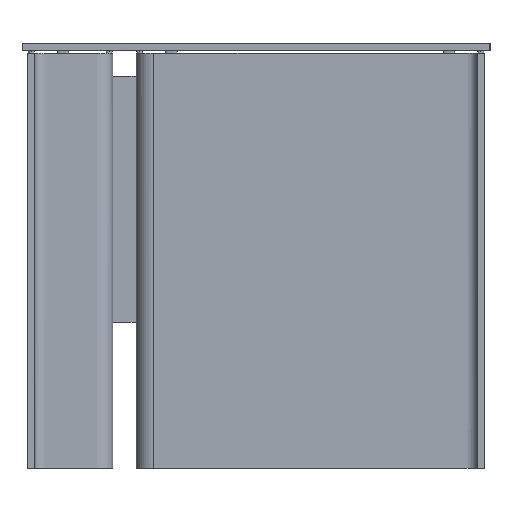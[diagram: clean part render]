
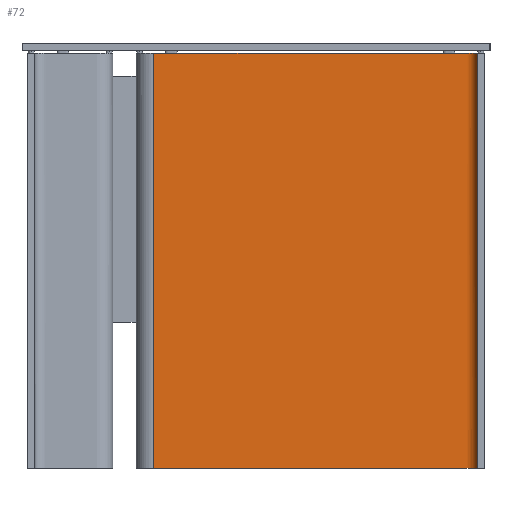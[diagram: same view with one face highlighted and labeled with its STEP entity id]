
A CAD part, left-side view. The second image highlights one B-rep face of the part: STEP entity #72.
In plain terms, the highlighted free-form (B-spline) face has degree [2, 1] with [7, 2] control points.
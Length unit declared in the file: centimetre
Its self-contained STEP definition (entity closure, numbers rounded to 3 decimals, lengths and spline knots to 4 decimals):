
#72=ADVANCED_FACE($,(#164),#942,.T.);
#164=FACE_OUTER_BOUND($,#256,.T.);
#256=EDGE_LOOP($,(#380,#381,#382,#383));
#380=ORIENTED_EDGE($,*,*,#679,.T.);
#381=ORIENTED_EDGE($,*,*,#675,.T.);
#382=ORIENTED_EDGE($,*,*,#669,.F.);
#383=ORIENTED_EDGE($,*,*,#668,.T.);
#668=EDGE_CURVE($,#834,#839,#1140,.T.);
#669=EDGE_CURVE($,#834,#835,#1034,.T.);
#675=EDGE_CURVE($,#840,#835,#1144,.T.);
#679=EDGE_CURVE($,#839,#840,#1039,.T.);
#834=VERTEX_POINT($,#1781);
#835=VERTEX_POINT($,#1782);
#839=VERTEX_POINT($,#1786);
#840=VERTEX_POINT($,#1787);
#942=(
BOUNDED_SURFACE()
B_SPLINE_SURFACE(2,1,((#1733,#1734),(#1735,#1736),(#1737,#1738),(#1739,#1740),
(#1741,#1742),(#1743,#1744),(#1745,#1746)),.UNSPECIFIED.,.F.,.F.,.F.)
B_SPLINE_SURFACE_WITH_KNOTS((3,2,2,3),(2,2),(-56.5,-3.,-0.1726,
5.8274),(0.,71.),.UNSPECIFIED.)
GEOMETRIC_REPRESENTATION_ITEM()
RATIONAL_B_SPLINE_SURFACE(((1.,1.),(1.,1.),(1.,1.),(0.707,0.707),
(1.,1.),(1.,1.),(1.,1.)))
REPRESENTATION_ITEM($)
SURFACE()
);
#1034=B_SPLINE_CURVE_WITH_KNOTS($,1,(#1676,#1677),.UNSPECIFIED.,.F.,.F.,
(2,2),(0.,71.),.UNSPECIFIED.);
#1039=B_SPLINE_CURVE_WITH_KNOTS($,1,(#1725,#1726),.UNSPECIFIED.,.F.,.F.,
(2,2),(0.,71.),.UNSPECIFIED.);
#1140=(
BOUNDED_CURVE()
B_SPLINE_CURVE(2,(#1669,#1670,#1671,#1672,#1673,#1674,#1675),.UNSPECIFIED.,
.F.,.F.)
B_SPLINE_CURVE_WITH_KNOTS((3,2,2,3),(-56.5,-3.,-0.1726,5.8274),
.UNSPECIFIED.)
CURVE()
GEOMETRIC_REPRESENTATION_ITEM()
RATIONAL_B_SPLINE_CURVE((1.,1.,1.,0.707,1.,1.,1.))
REPRESENTATION_ITEM($)
);
#1144=(
BOUNDED_CURVE()
B_SPLINE_CURVE(2,(#1703,#1704,#1705,#1706,#1707,#1708,#1709),.UNSPECIFIED.,
.F.,.F.)
B_SPLINE_CURVE_WITH_KNOTS((3,2,2,3),(-5.8274,0.1726,
3.,56.5),.UNSPECIFIED.)
CURVE()
GEOMETRIC_REPRESENTATION_ITEM()
RATIONAL_B_SPLINE_CURVE((1.,1.,1.,0.707,1.,1.,1.))
REPRESENTATION_ITEM($)
);
#1669=CARTESIAN_POINT($,(8.8,57.5,0.));
#1670=CARTESIAN_POINT($,(8.8,30.75,0.));
#1671=CARTESIAN_POINT($,(8.8,4.,0.));
#1672=CARTESIAN_POINT($,(8.8,2.2,0.));
#1673=CARTESIAN_POINT($,(7.,2.2,0.));
#1674=CARTESIAN_POINT($,(4.,2.2,0.));
#1675=CARTESIAN_POINT($,(1.,2.2,0.));
#1676=CARTESIAN_POINT($,(8.8,57.5,0.));
#1677=CARTESIAN_POINT($,(8.8,57.5,71.));
#1703=CARTESIAN_POINT($,(1.,2.2,71.));
#1704=CARTESIAN_POINT($,(4.,2.2,71.));
#1705=CARTESIAN_POINT($,(7.,2.2,71.));
#1706=CARTESIAN_POINT($,(8.8,2.2,71.));
#1707=CARTESIAN_POINT($,(8.8,4.,71.));
#1708=CARTESIAN_POINT($,(8.8,30.75,71.));
#1709=CARTESIAN_POINT($,(8.8,57.5,71.));
#1725=CARTESIAN_POINT($,(1.,2.2,0.));
#1726=CARTESIAN_POINT($,(1.,2.2,71.));
#1733=CARTESIAN_POINT($,(8.8,57.5,0.));
#1734=CARTESIAN_POINT($,(8.8,57.5,71.));
#1735=CARTESIAN_POINT($,(8.8,30.75,0.));
#1736=CARTESIAN_POINT($,(8.8,30.75,71.));
#1737=CARTESIAN_POINT($,(8.8,4.,0.));
#1738=CARTESIAN_POINT($,(8.8,4.,71.));
#1739=CARTESIAN_POINT($,(8.8,2.2,0.));
#1740=CARTESIAN_POINT($,(8.8,2.2,71.));
#1741=CARTESIAN_POINT($,(7.,2.2,0.));
#1742=CARTESIAN_POINT($,(7.,2.2,71.));
#1743=CARTESIAN_POINT($,(4.,2.2,0.));
#1744=CARTESIAN_POINT($,(4.,2.2,71.));
#1745=CARTESIAN_POINT($,(1.,2.2,0.));
#1746=CARTESIAN_POINT($,(1.,2.2,71.));
#1781=CARTESIAN_POINT($,(8.8,57.5,0.));
#1782=CARTESIAN_POINT($,(8.8,57.5,71.));
#1786=CARTESIAN_POINT($,(1.,2.2,0.));
#1787=CARTESIAN_POINT($,(1.,2.2,71.));
